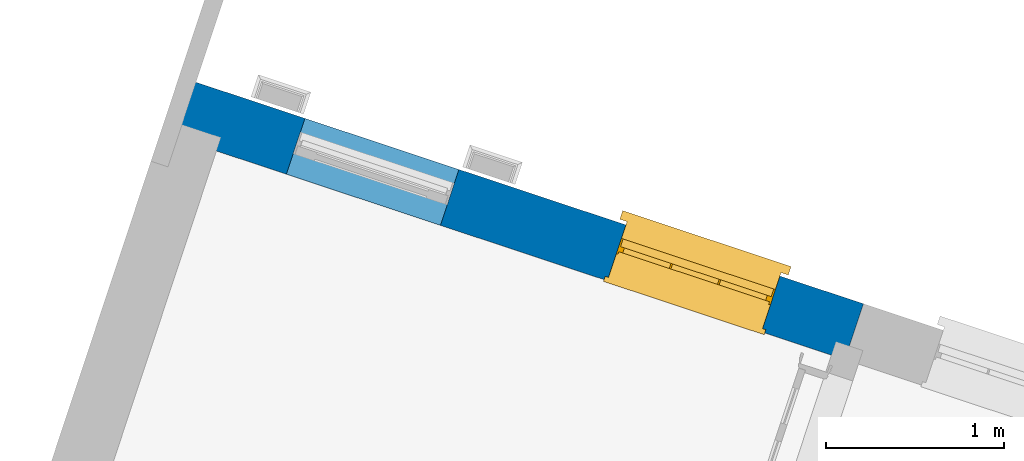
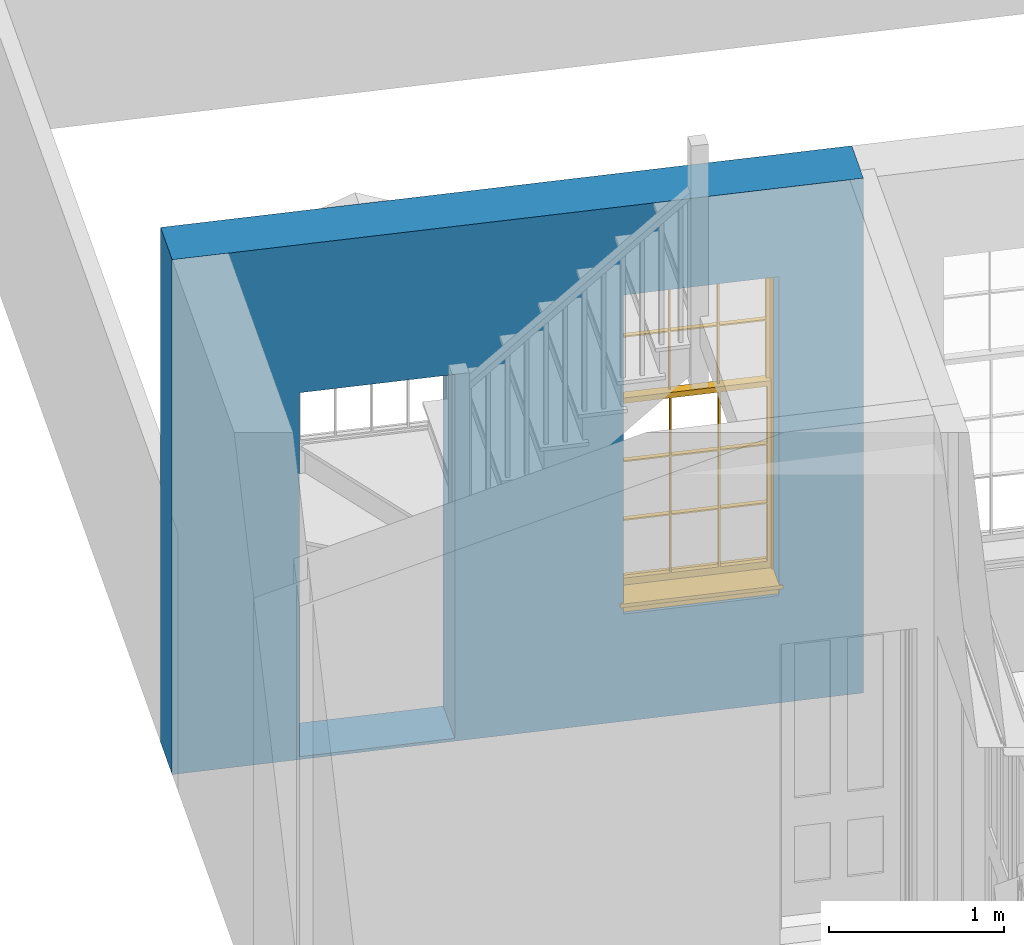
# One storey, part 4 of 6: 1 wall, 1 window, 2 openings.
"""IFC4 building model written with IfcOpenShell, lengths in metres."""

import ifcopenshell
import ifcopenshell.guid

model = None  # the IFC model being written
_history = None  # IfcOwnerHistory: only IFC2X3 demands one
_inside = {}  # id of a spatial element -> (the spatial element, [elements in it])
_under = {}  # id of a project, library or spatial element -> (it, [spatial elements below it])
_declared = {}  # id of a project -> (the project, [libraries it declares])
_typed = {}  # id of a type object -> (the type object, [elements of that type])
_made_of = {}  # id of a material, layer set ... -> (it, [elements and type objects made of it])


def new_model(schema):
    """Start an empty IFC model of exactly this schema.

    Asked for "IFC4X3", IfcOpenShell would pick the latest addendum, in which some entities
    have other attributes; the version numbers below select the first issue.
    IFC2X3 requires an IfcOwnerHistory on every rooted entity: one is made here for all.
    """
    global model, _history
    if schema == "IFC4X3":
        model = ifcopenshell.file(schema_version=(4, 3, 0, 0))
    else:
        model = ifcopenshell.file(schema=schema)
    _inside.clear()
    _under.clear()
    _declared.clear()
    _typed.clear()
    _made_of.clear()
    _history = None
    if model.schema == "IFC2X3":
        org = make("IfcOrganization", Name="unknown")
        user = make(
            "IfcPersonAndOrganization",
            ThePerson=make("IfcPerson", FamilyName="unknown"),
            TheOrganization=org,
        )
        app = make(
            "IfcApplication",
            ApplicationDeveloper=org,
            Version="unknown",
            ApplicationFullName="unknown",
            ApplicationIdentifier="unknown",
        )
        _history = make(
            "IfcOwnerHistory",
            OwningUser=user,
            OwningApplication=app,
            ChangeAction="ADDED",
            CreationDate=0,
        )
    return model


def make(cls, **values):
    """One entity of the class cls with the attributes given. An attribute that is None is left unset."""
    return model.create_entity(
        cls, **{name: value for name, value in values.items() if value is not None}
    )


def rooted(cls, **values):
    """An entity with a GlobalId (a new one), such as an element, a storey or a relation."""
    return make(cls, GlobalId=ifcopenshell.guid.new(), OwnerHistory=_history, **values)


def si_unit(unit_type, name, prefix=None):
    """IfcSIUnit, for example si_unit("LENGTHUNIT", "METRE", prefix="MILLI")."""
    return make("IfcSIUnit", UnitType=unit_type, Prefix=prefix, Name=name)


def assignment(units):
    """IfcUnitAssignment: the units of a project."""
    return None if units is None else make("IfcUnitAssignment", Units=units)


def point(xyz):
    """IfcCartesianPoint."""
    return None if xyz is None else make("IfcCartesianPoint", Coordinates=xyz)


def direction(xyz):
    """IfcDirection."""
    return None if xyz is None else make("IfcDirection", DirectionRatios=xyz)


def frame(location, z_axis=None, x_axis=None):
    """IfcAxis2Placement3D, a coordinate frame: its origin and axes. An axis left out is left unset."""
    return make(
        "IfcAxis2Placement3D",
        Location=point(location),
        Axis=direction(z_axis),
        RefDirection=direction(x_axis),
    )


def origin():
    """The frame at (0, 0, 0) with its axes left unset."""
    return frame((0.0, 0.0, 0.0))


def origin_with_axes():
    """The frame at (0, 0, 0) with the z axis (0, 0, 1) and the x axis (1, 0, 0) written out."""
    return frame((0.0, 0.0, 0.0), z_axis=(0.0, 0.0, 1.0), x_axis=(1.0, 0.0, 0.0))


def place(relative_to, where):
    """IfcLocalPlacement: puts the frame where relative to a parent placement (None: the world)."""
    return make(
        "IfcLocalPlacement", PlacementRelTo=relative_to, RelativePlacement=where
    )


def context(
    kind, dimensions, precision=None, world=None, true_north=None, identifier=None
):
    """IfcGeometricRepresentationContext, for example the 3D "Model" context."""
    return make(
        "IfcGeometricRepresentationContext",
        ContextIdentifier=identifier,
        ContextType=kind,
        CoordinateSpaceDimension=dimensions,
        Precision=precision,
        WorldCoordinateSystem=world,
        TrueNorth=true_north,
    )


def subcontext(parent, identifier, kind, view, scale=None):
    """IfcGeometricRepresentationSubContext, for example "Body" below "Model"."""
    return make(
        "IfcGeometricRepresentationSubContext",
        ContextIdentifier=identifier,
        ContextType=kind,
        ParentContext=parent,
        TargetScale=scale,
        TargetView=view,
    )


def project(units=None, contexts=None):
    """IfcProject with its units and contexts."""
    return rooted(
        "IfcProject",
        Name="project",
        RepresentationContexts=contexts,
        UnitsInContext=assignment(units),
    )


def spatial(cls, under=None, at=None, **own):
    """A site, building, storey or space (cls), placed at a placement, below another one or the project."""
    s = rooted(cls, ObjectPlacement=at, **own)
    if under is not None:
        _under.setdefault(under.id(), (under, []))[1].append(s)
    return s


def polyline(points):
    """IfcPolyline through the points."""
    return make("IfcPolyline", Points=[point(p) for p in points])


def outline(outer, holes=None, kind="AREA"):
    """IfcArbitraryClosedProfileDef: a profile drawn as a closed curve; with holes, ...WithVoids."""
    if holes is None:
        return make("IfcArbitraryClosedProfileDef", ProfileType=kind, OuterCurve=outer)
    return make(
        "IfcArbitraryProfileDefWithVoids",
        ProfileType=kind,
        OuterCurve=outer,
        InnerCurves=holes,
    )


def extrude(swept, where, along, depth):
    """IfcExtrudedAreaSolid: the profile swept, set in the frame where, extruded along a direction by depth."""
    return make(
        "IfcExtrudedAreaSolid",
        SweptArea=swept,
        Position=where,
        ExtrudedDirection=direction(along),
        Depth=depth,
    )


def faces_of(points, faces, orient=None, outer=None):
    """IfcFace entities. A face is a list of loops; a loop is a list of indices into points, from 0.

    orient and outer hold one flag for each loop. By default every Orientation is true, the
    first loop of a face is its IfcFaceOuterBound and the others are IfcFaceBound.
    """
    made = []
    for i, loops in enumerate(faces):
        bounds = []
        for j, loop in enumerate(loops):
            is_outer = j == 0 if outer is None else outer[i][j]
            bounds.append(
                make(
                    "IfcFaceOuterBound" if is_outer else "IfcFaceBound",
                    Bound=make("IfcPolyLoop", Polygon=[points[k] for k in loop]),
                    Orientation=True if orient is None else orient[i][j],
                )
            )
        made.append(make("IfcFace", Bounds=bounds))
    return made


def faceted_brep(points, faces, orient=None, outer=None, voids=None):
    """IfcFacetedBrep: a solid bounded by flat faces; with voids (closed shells), ...WithVoids."""
    shared = [point(p) for p in points]
    hull = make("IfcClosedShell", CfsFaces=faces_of(shared, faces, orient, outer))
    if voids is None:
        return make("IfcFacetedBrep", Outer=hull)
    return make(
        "IfcFacetedBrepWithVoids",
        Outer=hull,
        Voids=[
            make(cls, CfsFaces=faces_of(shared, fs, o, b)) for cls, fs, o, b in voids
        ],
    )


def shape(context_of_items, identifier, shape_type, items):
    """IfcShapeRepresentation: the items that make up one representation, for example the "Body"."""
    return make(
        "IfcShapeRepresentation",
        ContextOfItems=context_of_items,
        RepresentationIdentifier=identifier,
        RepresentationType=shape_type,
        Items=items,
    )


def source(mapping_origin, context_of_items, identifier, shape_type, items):
    """IfcRepresentationMap: a shape defined once, which mapped items show again and again."""
    return make(
        "IfcRepresentationMap",
        MappingOrigin=mapping_origin,
        MappedRepresentation=shape(context_of_items, identifier, shape_type, items),
    )


def transform(
    local_origin,
    x_axis=None,
    y_axis=None,
    z_axis=None,
    scale=None,
    scale2=None,
    scale3=None,
    uniform=True,
):
    """IfcCartesianTransformationOperator3D, or its non-uniform kind. x_axis, y_axis, z_axis: its Axis1, 2, 3."""
    if uniform:
        return make(
            "IfcCartesianTransformationOperator3D",
            Axis1=direction(x_axis),
            Axis2=direction(y_axis),
            LocalOrigin=point(local_origin),
            Scale=scale,
            Axis3=direction(z_axis),
        )
    return make(
        "IfcCartesianTransformationOperator3DnonUniform",
        Axis1=direction(x_axis),
        Axis2=direction(y_axis),
        LocalOrigin=point(local_origin),
        Scale=scale,
        Axis3=direction(z_axis),
        Scale2=scale2,
        Scale3=scale3,
    )


def mapped(mapping_source, mapping_target):
    """IfcMappedItem: shows the shape of a source again, moved by a transform."""
    return make(
        "IfcMappedItem", MappingSource=mapping_source, MappingTarget=mapping_target
    )


def material(Name=None, Category=None):
    """IfcMaterial."""
    return make("IfcMaterial", Name=Name, Category=Category)


def layer(
    of_material, thickness, ventilated=None, Name=None, Category=None, Priority=None
):
    """IfcMaterialLayer: one layer of a wall or slab, of a material (None: an air gap)."""
    return make(
        "IfcMaterialLayer",
        Material=of_material,
        LayerThickness=thickness,
        IsVentilated=ventilated,
        Name=Name,
        Category=Category,
        Priority=Priority,
    )


def layer_set(layers, Name=None):
    """IfcMaterialLayerSet."""
    return make("IfcMaterialLayerSet", MaterialLayers=layers, LayerSetName=Name)


def layer_usage(for_layer_set, set_direction, sense, offset, extent=None):
    """IfcMaterialLayerSetUsage: how a layer set lies in its element."""
    return make(
        "IfcMaterialLayerSetUsage",
        ForLayerSet=for_layer_set,
        LayerSetDirection=set_direction,
        DirectionSense=sense,
        OffsetFromReferenceLine=offset,
        ReferenceExtent=extent,
    )


def made_of(thing, what):
    """Note that an element or type object is made of a material, layer set ...; save() writes the relation."""
    if what is not None:
        _made_of.setdefault(what.id(), (what, []))[1].append(thing)
    return thing


def type_object(cls, material=None, **own):
    """A type object (cls), such as IfcWallType, which elements share."""
    return made_of(rooted(cls, **own), material)


def type_shapes(of_type, sources):
    """Give a type object the sources (RepresentationMaps) that its elements show as mapped items."""
    of_type.RepresentationMaps = sources


def element(
    cls,
    number,
    at=None,
    inside=None,
    cuts=None,
    type_object=None,
    material=None,
    context=None,
    identifier="Body",
    shape_type=None,
    held_by="IfcProductDefinitionShape",
    body=None,
    shapes=None,
    **own,
):
    """One element of the class cls, such as IfcWall. Its Tag is "e" and its number.

    at: its placement. inside: the storey or other place that contains it. cuts: it is an
    opening in that element (IfcRelVoidsElement). A single representation is given by context,
    identifier, shape_type and body (its items); several are given by shapes. held_by: the class
    of the entity that holds the representations. save() writes the other relations.
    """
    e = rooted(cls, Tag="e%d" % number, ObjectPlacement=at, **own)
    if body is not None:
        shapes = [shape(context, identifier, shape_type, body)]
    if shapes is not None:
        e.Representation = make(held_by, Representations=shapes)
    if inside is not None:
        _inside.setdefault(inside.id(), (inside, []))[1].append(e)
    if cuts is not None:
        rooted(
            "IfcRelVoidsElement", RelatingBuildingElement=cuts, RelatedOpeningElement=e
        )
    if type_object is not None:
        _typed.setdefault(type_object.id(), (type_object, []))[1].append(e)
    return made_of(e, material)


def fill(opening, filler):
    """IfcRelFillsElement: the door or window that sits in an opening."""
    return rooted(
        "IfcRelFillsElement",
        RelatingOpeningElement=opening,
        RelatedBuildingElement=filler,
    )


def aggregate(whole, parts):
    """IfcRelAggregates: a whole, such as a stair, and the parts it consists of."""
    return rooted("IfcRelAggregates", RelatingObject=whole, RelatedObjects=parts)


def save(model, path):
    """Write the relations noted so far, then the file.

    IfcRelAggregates (storeys below a building ...), IfcRelContainedInSpatialStructure (elements
    in a storey), IfcRelDefinesByType, IfcRelAssociatesMaterial and IfcRelDeclares: one each for
    every whole, place, type object, material and project.
    """
    for whole, parts in _under.values():
        aggregate(whole, parts)
    for where, things in _inside.values():
        rooted(
            "IfcRelContainedInSpatialStructure",
            RelatedElements=things,
            RelatingStructure=where,
        )
    for kind, things in _typed.values():
        rooted("IfcRelDefinesByType", RelatedObjects=things, RelatingType=kind)
    for what, things in _made_of.values():
        rooted("IfcRelAssociatesMaterial", RelatedObjects=things, RelatingMaterial=what)
    for by, libraries in _declared.values():
        rooted("IfcRelDeclares", RelatingContext=by, RelatedDefinitions=libraries)
    model.write(path)


model = new_model("IFC4")

# Units and contexts
model_context = context("Model", 3, world=origin_with_axes())
body_context = subcontext(model_context, "Body", "Model", "MODEL_VIEW")
ifc_project = project(units=[si_unit("PLANEANGLEUNIT", "RADIAN"), si_unit("MASSUNIT", "GRAM", prefix="KILO"), si_unit("FORCEUNIT", "NEWTON", prefix="KILO"), si_unit("LENGTHUNIT", "METRE"), si_unit("AREAUNIT", "SQUARE_METRE"), si_unit("VOLUMEUNIT", "CUBIC_METRE")], contexts=[model_context, model_context])

# Sites, building, storey
site_1_placement = place(None, origin_with_axes())
site_1 = spatial("IfcSite", under=ifc_project, at=site_1_placement, Name="Tamar")
site_2_placement = place(site_1_placement, origin_with_axes())
site_2 = spatial("IfcSite", under=site_1, at=site_2_placement, Name="Site plot-18", CompositionType="ELEMENT")
building_placement = place(None, origin_with_axes())
building = spatial("IfcBuilding", under=site_2, at=building_placement, Name="Building plot-18", CompositionType="ELEMENT")
storey_placement = place(None, frame((0.0, 0.0, 26.0), z_axis=(0.0, 0.0, 1.0), x_axis=(1.0, 0.0, 0.0)))
storey = spatial("IfcBuildingStorey", under=building, at=storey_placement, Name="plot-18 0", CompositionType="ELEMENT", Elevation=26.0)

# Wall, openings, window
ifc_material = material(Name="Masonry")
ifc_layer = layer(ifc_material, 0.33, ventilated=False)
ifc_layer_set = layer_set([ifc_layer], Name="exterior_0.08_0.25")
ifc_layer_usage = layer_usage(ifc_layer_set, "AXIS2", "POSITIVE", -0.25)
wall_type = type_object("IfcWallType", Name="exterior_0.08_0.25", PredefinedType="SOLIDWALL", material=ifc_layer_set)
wall_placement = place(storey_placement, frame((267.272133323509, 295.375506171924, 0.0), z_axis=(0.0, 0.0, 1.0), x_axis=(-0.949078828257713, 0.315038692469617, 0.0)))
wall = element("IfcWall", 1, at=wall_placement, inside=storey, type_object=wall_type, material=ifc_layer_usage, Name="exterior", context=body_context, shape_type="SweptSolid", body=[
    extrude(outline(polyline([(-9.55190120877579e-15, 0.0799999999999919), (-2.19115966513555e-14, -0.249999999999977), (4.04244306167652, -0.250000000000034), (4.04244306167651, 0.079999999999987), (-9.55190120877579e-15, 0.0799999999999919)])), origin_with_axes(), (0.0, 0.0, 1.0), 3.6),
])
opening_1_placement = place(wall_placement, frame((0.493110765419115, 0.0, 0.75)))
opening_1 = element("IfcOpeningElement", 2, at=opening_1_placement, cuts=wall, Name="My Opening", ObjectType="Opening", context=body_context, shape_type="SweptSolid", body=[
    extrude(outline(polyline([(0.0, -0.269999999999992), (0.910000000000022, -0.270000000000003), (0.910000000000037, 1.10000000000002), (1.43218770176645e-14, 1.10000000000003), (0.0, -0.269999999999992)])), origin_with_axes(), (0.0, 0.0, 1.0), 2.23),
])
opening_2_placement = place(wall_placement, frame((2.38933229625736, 0.0, 0.0199999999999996)))
element("IfcOpeningElement", 3, at=opening_2_placement, cuts=wall, Name="My Opening", ObjectType="Opening", context=body_context, shape_type="SweptSolid", body=[
    extrude(outline(polyline([(0.0, -0.269999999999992), (0.910000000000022, -0.270000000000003), (0.910000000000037, 1.10000000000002), (1.46549439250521e-14, 1.10000000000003), (0.0, -0.269999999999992)])), origin_with_axes(), (0.0, 0.0, 1.0), 2.545),
])
window_type = type_object("IfcWindowType", Name="sash_big_taller", PartitioningType="DOUBLE_PANEL_HORIZONTAL", PredefinedType="NOTDEFINED")
shared_shape = source(origin(), body_context, "Body", "Brep", [
    faceted_brep([(0.033125, 0.145, 1.385209), (0.01, 0.145, 1.385209), (0.033125, 0.145, 1.786042), (0.876875, 0.145, 1.385209), (0.876875, 0.145, 1.786042), (0.9, 0.145, 1.385209), (0.876875, 0.145, 1.796042), (0.876875, 0.145, 2.196875), (0.9, 0.145, 2.22), (0.033125, 0.145, 2.196875), (0.033125, 0.145, 1.796042), (0.01, 0.145, 2.22), (0.876875, 0.115, 1.786042), (0.876875, 0.115, 1.385209), (0.9, 0.115, 1.347084), (0.033125, 0.115, 2.196875), (0.01, 0.115, 2.22), (0.033125, 0.115, 1.796042), (0.01, 0.115, 1.347084), (0.033125, 0.115, 1.385209), (0.033125, 0.115, 1.786042), (0.876875, 0.115, 2.196875), (0.876875, 0.115, 1.796042), (0.9, 0.115, 2.22), (0.033125, 0.145, 1.347084), (0.01, 0.145, 1.347084), (0.033125, 0.145, 0.94625), (0.876875, 0.145, 1.347084), (0.876875, 0.145, 0.94625), (0.9, 0.145, 1.347084), (0.876875, 0.145, 0.52625), (0.876875, 0.145, 0.125417), (0.9, 0.145, 0.077167), (0.033125, 0.145, 0.125417), (0.033125, 0.145, 0.52625), (0.01, 0.145, 0.077167), (-0.0425, 0.0, 0.01), (-0.0425, -0.05, 0.001667), (0.0, 0.0, 0.01), (0.9525, 0.0, 0.01), (0.91, 0.0, 0.01), (0.9525, -0.05, 0.001667), (-0.02, 0.33, 0.077167), (0.0, 0.33, 0.077167), (-0.02, 0.36, 0.077167), (0.0, 0.19, 0.077167), (0.01, 0.19, 0.077167), (0.91, 0.19, 0.077167), (0.91, 0.33, 0.077167), (0.9, 0.19, 0.077167), (0.93, 0.33, 0.077167), (0.93, 0.36, 0.077167), (0.01, 0.175, 1.385209), (0.9, 0.175, 1.385209), (0.876875, 0.175, 0.125417), (0.876875, 0.175, 0.52625), (0.9, 0.175, 0.077167), (0.876875, 0.175, 0.94625), (0.876875, 0.175, 1.347084), (0.033125, 0.175, 0.125417), (0.01, 0.175, 0.077167), (0.033125, 0.175, 0.52625), (0.033125, 0.175, 1.347084), (0.033125, 0.175, 0.94625), (-0.02, 0.33, 0.052167), (-0.02, 0.36, 0.052167), (0.93, 0.36, 0.052167), (0.93, 0.33, 0.052167), (0.91, 0.33, 0.052167), (0.0, 0.33, 0.052167), (0.91, 0.1, 0.026667), (0.0, 0.1, 0.026667), (-0.0425, -0.05, -0.123333), (0.9525, -0.05, -0.123333), (-0.0425, 0.0, -0.123333), (0.9525, 0.0, -0.123333), (0.01, 0.19, 2.22), (0.9, 0.19, 2.22), (0.0, 0.19, 2.23), (0.91, 0.19, 2.23), (0.01, 0.1, 0.077167), (0.9, 0.1, 0.077167), (0.592292, 0.145, 0.125417), (0.592292, 0.175, 0.125417), (0.317708, 0.175, 0.125417), (0.317708, 0.145, 0.125417), (0.592292, 0.145, 0.53625), (0.317708, 0.145, 0.53625), (0.317708, 0.145, 0.52625), (0.592292, 0.145, 0.52625), (0.592292, 0.175, 0.53625), (0.317708, 0.175, 0.53625), (0.592292, 0.115, 1.796042), (0.592292, 0.145, 1.796042), (0.317708, 0.145, 1.796042), (0.317708, 0.115, 1.796042), (0.317708, 0.115, 1.786042), (0.592292, 0.115, 1.786042), (0.317708, 0.145, 1.786042), (0.592292, 0.145, 1.786042), (0.602292, 0.115, 1.786042), (0.592292, 0.115, 1.385209), (0.602292, 0.115, 1.385209), (0.602292, 0.145, 1.385209), (0.592292, 0.145, 1.385209), (0.602292, 0.145, 1.786042), (0.876875, 0.145, 0.53625), (0.876875, 0.175, 0.53625), (0.602292, 0.175, 0.53625), (0.602292, 0.145, 0.53625), (0.317708, 0.175, 0.52625), (0.307708, 0.175, 0.125417), (0.307708, 0.175, 0.52625), (0.602292, 0.175, 0.52625), (0.602292, 0.175, 0.125417), (0.592292, 0.175, 0.52625), (0.307708, 0.175, 0.53625), (0.033125, 0.175, 0.53625), (0.317708, 0.175, 1.347084), (0.317708, 0.175, 0.94625), (0.307708, 0.175, 0.94625), (0.307708, 0.175, 1.347084), (0.602292, 0.175, 1.347084), (0.602292, 0.175, 0.94625), (0.592292, 0.175, 0.94625), (0.592292, 0.175, 1.347084), (0.307708, 0.145, 0.52625), (0.307708, 0.145, 0.125417), (0.307708, 0.145, 0.53625), (0.033125, 0.145, 0.53625), (0.307708, 0.145, 1.347084), (0.307708, 0.145, 0.94625), (0.592292, 0.145, 1.347084), (0.592292, 0.145, 0.94625), (0.317708, 0.145, 0.94625), (0.317708, 0.145, 1.347084), (0.602292, 0.145, 0.94625), (0.602292, 0.145, 1.347084), (0.602292, 0.145, 0.52625), (0.602292, 0.145, 0.125417), (0.307708, 0.115, 1.796042), (0.307708, 0.115, 1.786042), (0.307708, 0.115, 1.385209), (0.317708, 0.115, 1.385209), (0.317708, 0.115, 2.196875), (0.307708, 0.115, 2.196875), (0.602292, 0.115, 2.196875), (0.592292, 0.115, 2.196875), (0.602292, 0.115, 1.796042), (0.602292, 0.145, 1.796042), (0.307708, 0.145, 1.796042), (0.307708, 0.145, 2.196875), (0.317708, 0.145, 2.196875), (0.592292, 0.145, 2.196875), (0.602292, 0.145, 2.196875), (0.307708, 0.145, 1.786042), (0.317708, 0.145, 1.385209), (0.307708, 0.145, 1.385209), (0.876875, 0.175, 0.93625), (0.033125, 0.175, 0.93625), (0.033125, 0.145, 0.93625), (0.876875, 0.145, 0.93625), (0.91, 0.1, 2.23), (0.9, 0.1, 2.22), (0.01, 0.1, 2.22), (0.0, 0.1, 2.23), (0.91, 0.0, 0.0), (0.0, 0.0, 0.0), (0.91, 0.33, 0.0), (0.0, 0.33, 0.0), (0.317708, 0.145, 0.93625), (0.592292, 0.145, 0.93625), (0.317708, 0.175, 0.93625), (0.307708, 0.175, 0.93625), (0.602292, 0.175, 0.93625), (0.592292, 0.175, 0.93625), (0.307708, 0.145, 0.93625), (0.602292, 0.145, 0.93625)], [[[0, 1, 2]], [[3, 4, 5]], [[6, 7, 8]], [[9, 10, 11]], [[12, 13, 14]], [[15, 16, 17]], [[18, 19, 20]], [[21, 22, 23]], [[24, 25, 26]], [[27, 28, 29]], [[30, 31, 32]], [[33, 34, 35]], [[14, 27, 29]], [[25, 24, 18]], [[36, 37, 38]], [[39, 40, 41]], [[42, 43, 44]], [[45, 46, 43]], [[47, 48, 49]], [[50, 51, 48]], [[1, 0, 52]], [[5, 53, 3]], [[54, 55, 56]], [[57, 58, 53]], [[59, 60, 61]], [[62, 63, 52]], [[48, 43, 46, 49]], [[51, 44, 43, 48]], [[64, 42, 44, 65]], [[65, 44, 51, 66]], [[66, 51, 50, 67]], [[65, 66, 68, 69]], [[60, 56, 49, 46]], [[70, 71, 38, 40]], [[37, 41, 40, 38]], [[37, 72, 73, 41]], [[74, 75, 73, 72]], [[8, 11, 76, 77]], [[76, 78, 79, 77]], [[32, 35, 80, 81]], [[81, 80, 71, 70]], [[82, 83, 84, 85]], [[86, 87, 88, 89]], [[86, 90, 91, 87]], [[92, 93, 94, 95]], [[92, 95, 96, 97]], [[96, 98, 99, 97]], [[100, 97, 101, 102]], [[103, 104, 99, 105]], [[97, 99, 104, 101]], [[102, 103, 105, 100]], [[106, 107, 108, 109]], [[110, 84, 111, 112]], [[113, 114, 83, 115]], [[116, 112, 61, 117]], [[90, 115, 110, 91]], [[118, 119, 120, 121]], [[122, 123, 124, 125]], [[113, 108, 107, 55]], [[126, 112, 111, 127]], [[34, 61, 112, 126]], [[89, 115, 83, 82]], [[88, 110, 115, 89]], [[85, 84, 110, 88]], [[128, 116, 117, 129]], [[130, 121, 120, 131]], [[132, 125, 124, 133]], [[134, 119, 118, 135]], [[136, 123, 122, 137]], [[138, 113, 55, 30]], [[139, 114, 113, 138]], [[138, 30, 106, 109]], [[88, 126, 127, 85]], [[138, 89, 82, 139]], [[137, 132, 133, 136]], [[128, 129, 34, 126]], [[135, 130, 131, 134]], [[140, 17, 20, 141]], [[96, 141, 142, 143]], [[144, 145, 140, 95]], [[146, 147, 92, 148]], [[100, 12, 22, 148]], [[149, 6, 4, 105]], [[94, 150, 151, 152]], [[149, 93, 153, 154]], [[99, 98, 94, 93]], [[155, 2, 10, 150]], [[156, 157, 155, 98]], [[141, 155, 157, 142]], [[20, 2, 155, 141]], [[143, 156, 98, 96]], [[140, 150, 10, 17]], [[145, 151, 150, 140]], [[147, 153, 93, 92]], [[95, 94, 152, 144]], [[22, 6, 149, 148]], [[148, 149, 154, 146]], [[100, 105, 4, 12]], [[109, 86, 89, 138]], [[108, 113, 115, 90]], [[91, 110, 112, 116]], [[87, 128, 126, 88]], [[97, 100, 148, 92]], [[141, 96, 95, 140]], [[98, 155, 150, 94]], [[105, 99, 93, 149]], [[143, 101, 104, 156]], [[135, 118, 125, 132]], [[144, 152, 153, 147]], [[127, 111, 59, 33]], [[15, 9, 151, 145]], [[146, 154, 7, 21]], [[31, 54, 114, 139]], [[36, 74, 72, 37]], [[39, 41, 73, 75]], [[18, 14, 101, 143]], [[23, 16, 144, 147]], [[83, 56, 60, 84]], [[52, 53, 125, 118]], [[53, 52, 156, 104]], [[11, 8, 153, 152]], [[14, 18, 135, 132]], [[2, 1, 11, 10]], [[8, 5, 4, 6]], [[57, 53, 56, 158]], [[60, 52, 63, 159]], [[26, 25, 35, 160]], [[32, 29, 28, 161]], [[14, 23, 22, 12]], [[18, 20, 17, 16]], [[19, 0, 2, 20]], [[17, 10, 9, 15]], [[12, 4, 3, 13]], [[21, 7, 6, 22]], [[27, 58, 57, 28]], [[30, 55, 54, 31]], [[33, 59, 61, 34]], [[26, 63, 62, 24]], [[5, 8, 77, 53]], [[76, 11, 1, 52]], [[46, 45, 78, 76]], [[49, 77, 79, 47]], [[70, 162, 163, 81]], [[71, 80, 164, 165]], [[19, 142, 157, 0]], [[102, 13, 3, 103]], [[121, 130, 24, 62]], [[29, 32, 81, 14]], [[80, 35, 25, 18]], [[60, 46, 76, 52]], [[77, 49, 56, 53]], [[23, 14, 81, 163]], [[16, 164, 80, 18]], [[35, 85, 127]], [[127, 33, 35]], [[139, 82, 32]], [[32, 31, 139]], [[32, 82, 85, 35]], [[102, 101, 14]], [[14, 13, 102]], [[18, 143, 142]], [[142, 19, 18]], [[146, 21, 23]], [[23, 147, 146]], [[16, 15, 145]], [[145, 144, 16]], [[11, 152, 151]], [[151, 9, 11]], [[154, 153, 8]], [[8, 7, 154]], [[23, 163, 164, 16]], [[162, 165, 164, 163]], [[52, 118, 121]], [[121, 62, 52]], [[125, 53, 122]], [[58, 122, 53]], [[27, 137, 122, 58]], [[56, 83, 114]], [[114, 54, 56]], [[111, 84, 60]], [[60, 59, 111]], [[137, 27, 14]], [[14, 132, 137]], [[130, 135, 18]], [[18, 24, 130]], [[157, 156, 52]], [[52, 0, 157]], [[103, 3, 53]], [[53, 104, 103]], [[79, 78, 165, 162]], [[78, 45, 71, 165]], [[162, 70, 47, 79]], [[166, 75, 74, 167]], [[68, 66, 67]], [[48, 68, 67, 50]], [[69, 64, 65]], [[42, 64, 69, 43]], [[69, 68, 168, 169]], [[70, 68, 48, 47]], [[166, 168, 68, 70]], [[43, 69, 71, 45]], [[69, 169, 167, 71]], [[168, 166, 167, 169]], [[38, 167, 74, 36]], [[71, 167, 38]], [[39, 75, 166, 40]], [[40, 166, 70]], [[133, 134, 170, 171]], [[133, 124, 119, 134]], [[28, 57, 123, 136]], [[172, 91, 116, 173]], [[174, 108, 90, 175]], [[120, 173, 159, 63]], [[124, 175, 172, 119]], [[174, 123, 57, 158]], [[176, 173, 116, 128]], [[160, 159, 173, 176]], [[171, 175, 90, 86]], [[170, 172, 175, 171]], [[87, 91, 172, 170]], [[131, 120, 63, 26]], [[177, 174, 158, 161]], [[109, 108, 174, 177]], [[177, 161, 28, 136]], [[170, 176, 128, 87]], [[177, 171, 86, 109]], [[131, 26, 160, 176]], [[136, 133, 171, 177]], [[123, 174, 175, 124]], [[119, 172, 173, 120]], [[134, 131, 176, 170]], [[129, 117, 159, 160]], [[161, 158, 107, 106]], [[35, 34, 129]], [[35, 129, 160]], [[32, 106, 30]], [[32, 161, 106]], [[56, 55, 107]], [[56, 107, 158]], [[60, 117, 61]], [[60, 159, 117]]]),
])
type_shapes(window_type, [shared_shape])
window_placement = place(storey_placement, frame((266.889192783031, 295.787106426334, 0.75), z_axis=(0.0, 0.0, 1.0), x_axis=(-0.863661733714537, 0.286685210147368, 0.0)))
window = element("IfcWindow", 4, at=window_placement, inside=storey, type_object=window_type, Name="circulation outside window", OverallHeight=2.23, OverallWidth=0.91, context=body_context, shape_type="MappedRepresentation", body=[
    mapped(shared_shape, transform((0.0, 0.0, 0.0), scale=1.0)),
])
fill(opening_1, window)

save(model, "model.ifc")
